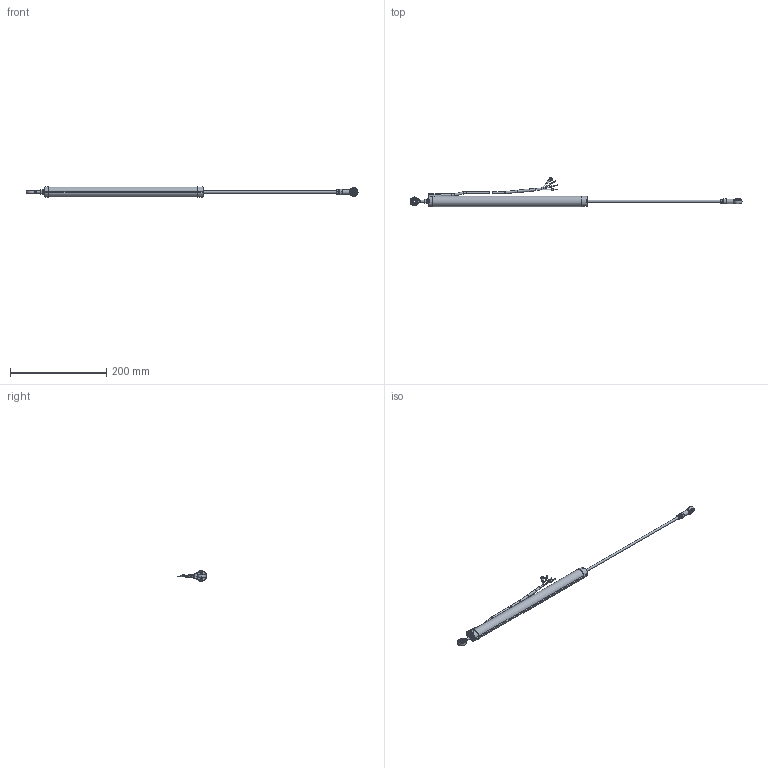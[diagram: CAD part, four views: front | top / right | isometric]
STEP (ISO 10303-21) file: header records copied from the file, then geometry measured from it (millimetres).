
FILE_DESCRIPTION(/* description */ (''),/* implementation_level */ '2;1');
FILE_NAME(/* name */ 'D:\LPPS-22 CAD Drawings\3D\LPPS-22-275\LPPS-22-275 SW.stp',/* time_stamp */ '2021-10-22T15:57:02-04:00',/* author */ ('Justin'),/* organization */ (''),/* preprocessor_version */ 'ST-DEVELOPER v18.1',/* originating_system */ 'Autodesk Inventor 2022',/* authorisation */ '');
FILE_SCHEMA (('AUTOMOTIVE_DESIGN { 1 0 10303 214 3 1 1 }'));
Products named in the file (4): LPPS-22-275 SW; LPPS-22-250 Cable_Simplify; LPPS-22-275 Housing_Simplify; LPPS-22-275 Shaft_Simplify
Assembly tree (3 placements, depth 2):
  LPPS-22-275 SW
    LPPS-22-250 Cable_Simplify
    LPPS-22-275 Housing_Simplify
    LPPS-22-275 Shaft_Simplify
Bounding box: 688.18 x 60.43 x 21.96 mm (x, y, z)
Volume: 67220.4 mm3; surface area: 63742.1 mm2
Topology: 30 solids, 30 shells, 757 faces, 2739 edges, 2048 vertices
Faces by surface type: cylinder 349, plane 202, cone 142, bspline 28, torus 22, sphere 14
Full cylindrical faces by diameter (mm): 1.27 x3, 1.48 x96, 1.575 x2, 2 x92, 2.286 x5, 3.175 x5, 3.81 x1, 3.881 x1, 4 x4, 4.134 x1, 4.191 x1, 4.342 x12, 4.572 x5, 4.826 x3, 4.851 x1, 4.953 x1, 5 x15, 5.004 x2, 5.08 x1, 5.207 x1, 5.3 x1, 6.35 x2, 9.144 x1, 10 x1, 12.675 x4, 12.7 x1, 15.875 x2, 17.78 x1
Entity records: 45085 total; most frequent: CARTESIAN_POINT 23734, ORIENTED_EDGE 5444, DIRECTION 3368, EDGE_CURVE 2722, VERTEX_POINT 2048, AXIS2_PLACEMENT_3D 1373, EDGE_LOOP 826, STYLED_ITEM 787
